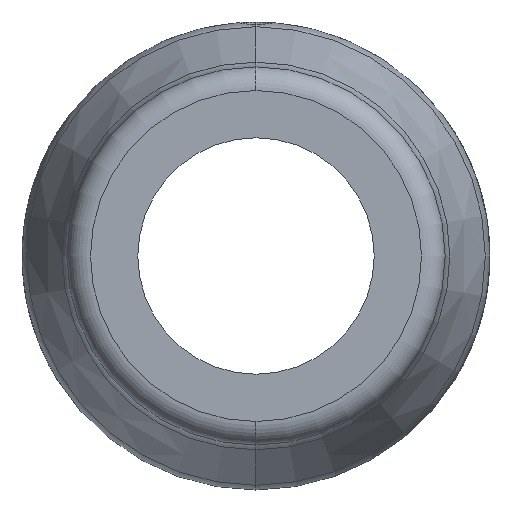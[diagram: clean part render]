
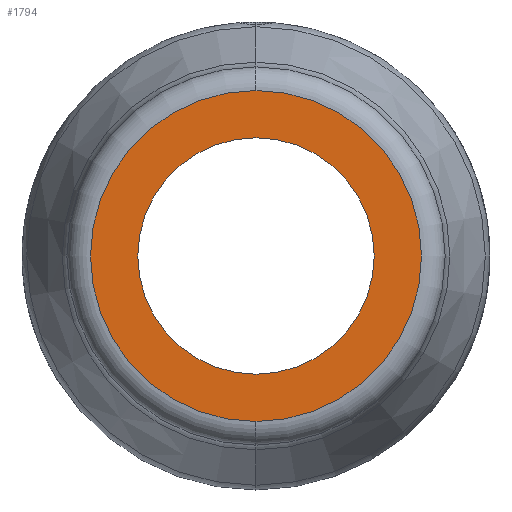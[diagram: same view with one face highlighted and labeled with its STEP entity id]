
A CAD part, left-side view. The second image highlights one B-rep face of the part: STEP entity #1794.
In plain terms, the highlighted planar face has unit normal (-1, 0, 0).
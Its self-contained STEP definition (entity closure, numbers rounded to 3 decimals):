
#61 = EDGE_CURVE ( 'NONE', #387, #1084, #191, .T. ) ;
#65 = CIRCLE ( 'NONE', #1367, 50. ) ;
#155 = PLANE ( 'NONE',  #1841 ) ;
#178 = AXIS2_PLACEMENT_3D ( 'NONE', #1187, #221, #1348 ) ;
#187 = CARTESIAN_POINT ( 'NONE',  ( 0., 0., 0. ) ) ;
#191 = CIRCLE ( 'NONE', #333, 70. ) ;
#221 = DIRECTION ( 'NONE',  ( -1., 0., 0. ) ) ;
#285 = DIRECTION ( 'NONE',  ( -1., 0., 0. ) ) ;
#324 = CARTESIAN_POINT ( 'NONE',  ( 0., 50., 0. ) ) ;
#333 = AXIS2_PLACEMENT_3D ( 'NONE', #187, #285, #933 ) ;
#370 = VERTEX_POINT ( 'NONE', #1838 ) ;
#387 = VERTEX_POINT ( 'NONE', #1803 ) ;
#421 = EDGE_LOOP ( 'NONE', ( #1515, #944 ) ) ;
#423 = CARTESIAN_POINT ( 'NONE',  ( 0., 0., 50. ) ) ;
#451 = ORIENTED_EDGE ( 'NONE', *, *, #1969, .F. ) ;
#494 = DIRECTION ( 'NONE',  ( 0., 0., -1. ) ) ;
#558 = VERTEX_POINT ( 'NONE', #423 ) ;
#579 = DIRECTION ( 'NONE',  ( -1., 0., 0. ) ) ;
#614 = EDGE_CURVE ( 'NONE', #1084, #387, #953, .T. ) ;
#628 = AXIS2_PLACEMENT_3D ( 'NONE', #1662, #579, #1814 ) ;
#682 = EDGE_CURVE ( 'NONE', #558, #370, #65, .T. ) ;
#910 = DIRECTION ( 'NONE',  ( 0., 0., 1. ) ) ;
#933 = DIRECTION ( 'NONE',  ( 0., 0., -1. ) ) ;
#944 = ORIENTED_EDGE ( 'NONE', *, *, #614, .T. ) ;
#953 = CIRCLE ( 'NONE', #628, 70. ) ;
#971 = ORIENTED_EDGE ( 'NONE', *, *, #682, .F. ) ;
#973 = DIRECTION ( 'NONE',  ( -1., 0., 0. ) ) ;
#1084 = VERTEX_POINT ( 'NONE', #1240 ) ;
#1187 = CARTESIAN_POINT ( 'NONE',  ( 0., 0., 0. ) ) ;
#1240 = CARTESIAN_POINT ( 'NONE',  ( 0., 0., 70. ) ) ;
#1348 = DIRECTION ( 'NONE',  ( 0., 0., 1. ) ) ;
#1367 = AXIS2_PLACEMENT_3D ( 'NONE', #1405, #973, #910 ) ;
#1405 = CARTESIAN_POINT ( 'NONE',  ( 0., 0., 0. ) ) ;
#1432 = CIRCLE ( 'NONE', #178, 50. ) ;
#1437 = DIRECTION ( 'NONE',  ( 1., 0., 0. ) ) ;
#1515 = ORIENTED_EDGE ( 'NONE', *, *, #61, .T. ) ;
#1648 = FACE_BOUND ( 'NONE', #1766, .T. ) ;
#1662 = CARTESIAN_POINT ( 'NONE',  ( 0., 0., 0. ) ) ;
#1766 = EDGE_LOOP ( 'NONE', ( #971, #451 ) ) ;
#1794 = ADVANCED_FACE ( 'NONE', ( #1955, #1648 ), #155, .F. ) ;
#1803 = CARTESIAN_POINT ( 'NONE',  ( 0., 0., -70. ) ) ;
#1814 = DIRECTION ( 'NONE',  ( 0., 0., -1. ) ) ;
#1838 = CARTESIAN_POINT ( 'NONE',  ( 0., 0., -50. ) ) ;
#1841 = AXIS2_PLACEMENT_3D ( 'NONE', #324, #1437, #494 ) ;
#1955 = FACE_OUTER_BOUND ( 'NONE', #421, .T. ) ;
#1969 = EDGE_CURVE ( 'NONE', #370, #558, #1432, .T. ) ;
